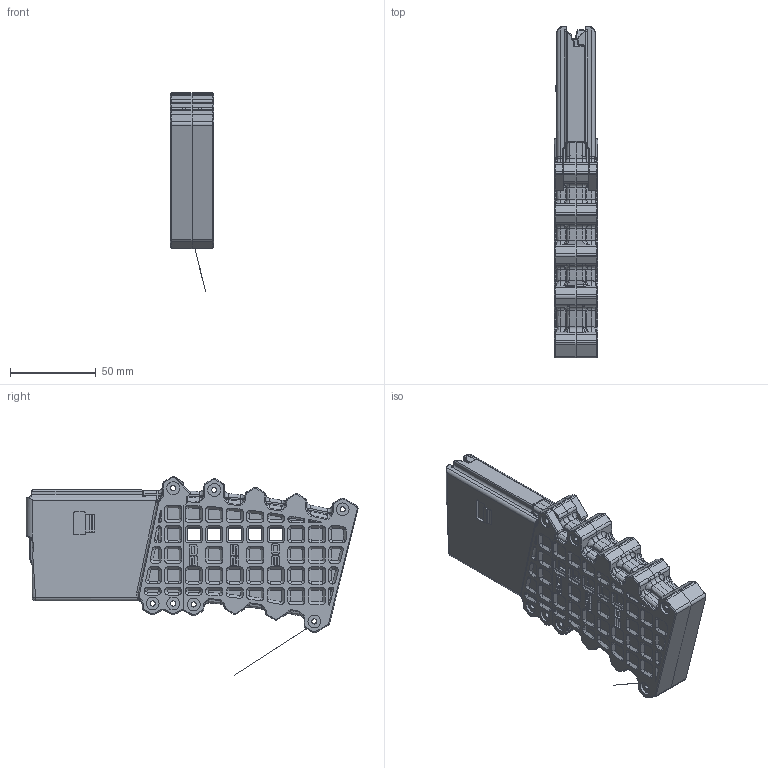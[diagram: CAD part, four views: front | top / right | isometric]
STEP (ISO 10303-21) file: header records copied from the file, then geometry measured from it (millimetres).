
FILE_DESCRIPTION (( 'STEP AP214' ), '1' );
FILE_NAME ('Waffle Windowed Magazine.STEP', '2021-05-01T22:59:00', ( '' ), ( '' ), 'SwSTEP 2.0', 'SolidWorks 2020', '' );
FILE_SCHEMA (( 'AUTOMOTIVE_DESIGN' ));
Length unit declared in the file: millimetre
Products named in the file (5): Mag Body Top; Mag Follower; Mag Body Bottom Left Windowed; Waffle Windowed Magazine; Mag Body Bottom Right Windowed
Assembly tree (4 placements, depth 2):
  Waffle Windowed Magazine
    Mag Body Top
    Mag Body Bottom Left Windowed
    Mag Body Bottom Right Windowed
    Mag Follower
Bounding box: 25.5 x 194 x 115.96 mm (x, y, z)
Volume: 115737.3 mm3; surface area: 83394.7 mm2
Topology: 4 solids, 6 shells, 3476 faces, 8990 edges, 5527 vertices
Faces by surface type: plane 1090, cylinder 877, bspline 812, cone 455, torus 212, sphere 30
Entity records: 134932 total; most frequent: CARTESIAN_POINT 56094, ORIENTED_EDGE 17738, DIRECTION 14825, EDGE_CURVE 8869, VERTEX_POINT 5519, AXIS2_PLACEMENT_3D 5384, LINE 4057, VECTOR 4057
